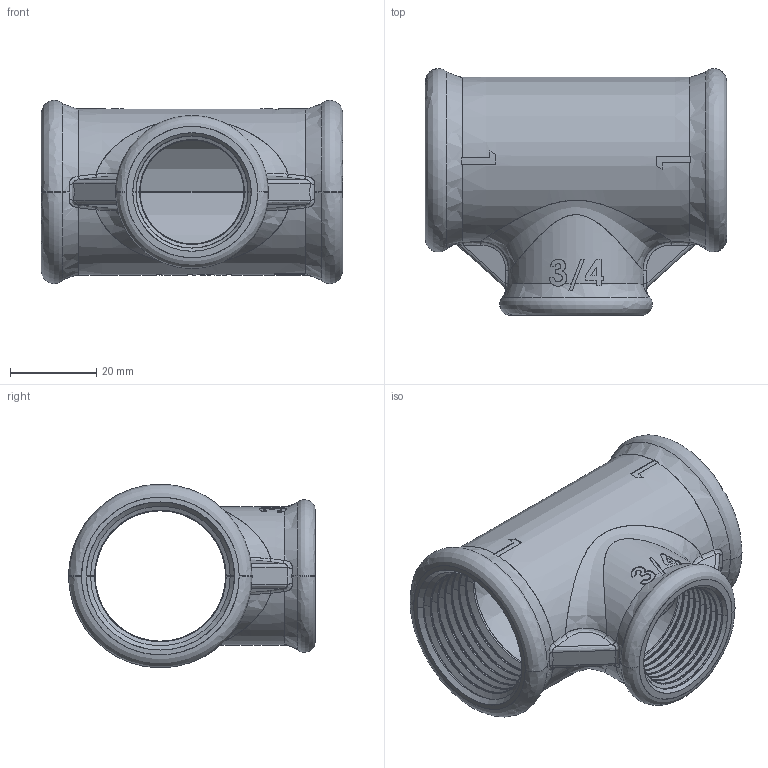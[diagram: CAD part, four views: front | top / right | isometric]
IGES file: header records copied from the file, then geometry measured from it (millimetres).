
Start section: SolidWorks IGES file using analytic representation for surfaces
Global section: file name: C:\Users\Joel Rosa\Desktop\Tubulação\12-45-XXX\12-45-033.IGS; native system: SolidWorks 2011; preprocessor: SolidWorks 2011; author: Joel Rosa; date: 121212.233312; units: millimetre
Bounding box: 70 x 57.3 x 42.6 mm (x, y, z)
Surface area: 22734.2 mm2 (no closed solid volume)
Topology: 0 solids, 0 shells, 427 faces, 4106 edges, 4106 vertices
Faces by surface type: bspline 303, revolution 124
